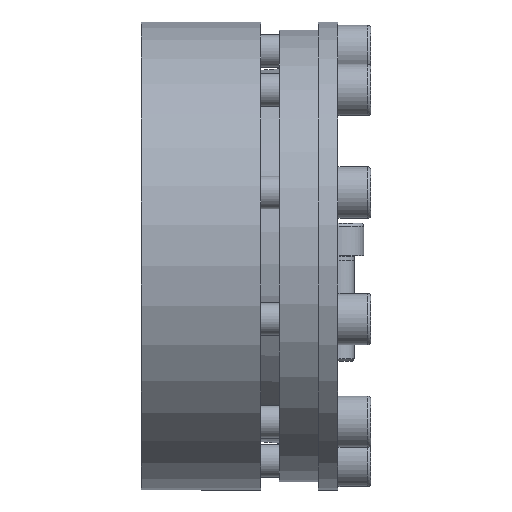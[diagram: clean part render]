
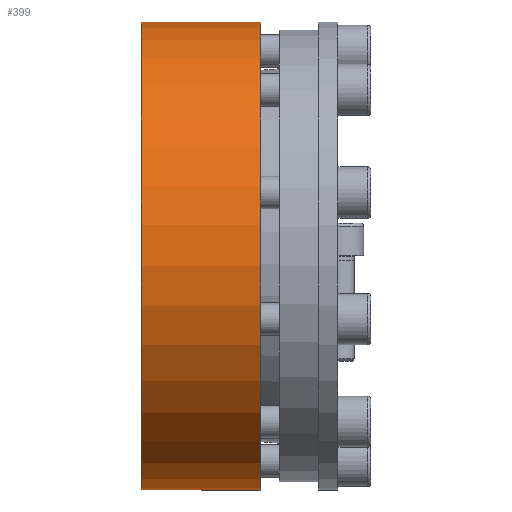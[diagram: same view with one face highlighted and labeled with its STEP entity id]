
A CAD part, left-side view. The second image highlights one B-rep face of the part: STEP entity #399.
In plain terms, the highlighted cylindrical face has radius 100 mm (diameter 200 mm), a partial arc.
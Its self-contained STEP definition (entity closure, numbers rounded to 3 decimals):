
#399 = ADVANCED_FACE( '', ( #639 ), #640, .T. );
#639 = FACE_OUTER_BOUND( '', #827, .T. );
#640 = CYLINDRICAL_SURFACE( '', #828, 100. );
#827 = EDGE_LOOP( '', ( #1097, #1098, #1099, #1100 ) );
#828 = AXIS2_PLACEMENT_3D( '', #1101, #1102, #1103 );
#1097 = ORIENTED_EDGE( '', *, *, #1442, .F. );
#1098 = ORIENTED_EDGE( '', *, *, #1449, .T. );
#1099 = ORIENTED_EDGE( '', *, *, #1454, .T. );
#1100 = ORIENTED_EDGE( '', *, *, #1414, .T. );
#1101 = CARTESIAN_POINT( '', ( 0., -60., 0. ) );
#1102 = DIRECTION( '', ( 0., 1., 0. ) );
#1103 = DIRECTION( '', ( 0., 0., -1. ) );
#1414 = EDGE_CURVE( '', #1567, #1565, #1568, .T. );
#1442 = EDGE_CURVE( '', #1618, #1565, #1620, .T. );
#1449 = EDGE_CURVE( '', #1618, #1631, #1633, .F. );
#1454 = EDGE_CURVE( '', #1631, #1567, #1641, .T. );
#1565 = VERTEX_POINT( '', #1719 );
#1567 = VERTEX_POINT( '', #1722 );
#1568 = LINE( '', #1723, #1724 );
#1618 = VERTEX_POINT( '', #1780 );
#1620 = CIRCLE( '', #1783, 100. );
#1631 = VERTEX_POINT( '', #1798 );
#1633 = LINE( '', #1801, #1802 );
#1641 = CIRCLE( '', #1813, 100. );
#1719 = CARTESIAN_POINT( '', ( 32.798, 33., 94.469 ) );
#1722 = CARTESIAN_POINT( '', ( 32.798, 84., 94.469 ) );
#1723 = CARTESIAN_POINT( '', ( 32.798, -60., 94.469 ) );
#1724 = VECTOR( '', #1871, 1000. );
#1780 = CARTESIAN_POINT( '', ( 28.993, 33., 95.705 ) );
#1783 = AXIS2_PLACEMENT_3D( '', #1942, #1943, #1944 );
#1798 = CARTESIAN_POINT( '', ( 28.993, 84., 95.705 ) );
#1801 = CARTESIAN_POINT( '', ( 28.993, -60., 95.705 ) );
#1802 = VECTOR( '', #1956, 1000. );
#1813 = AXIS2_PLACEMENT_3D( '', #1963, #1964, #1965 );
#1871 = DIRECTION( '', ( 0., -1., 0. ) );
#1942 = CARTESIAN_POINT( '', ( 0., 33., 0. ) );
#1943 = DIRECTION( '', ( 0., -1., 0. ) );
#1944 = DIRECTION( '', ( 0., 0., -1. ) );
#1956 = DIRECTION( '', ( 0., -1., 0. ) );
#1963 = CARTESIAN_POINT( '', ( 0., 84., 0. ) );
#1964 = DIRECTION( '', ( 0., -1., 0. ) );
#1965 = DIRECTION( '', ( 0., 0., -1. ) );
